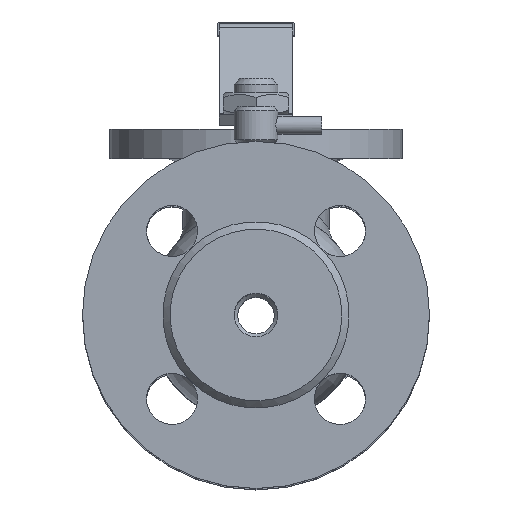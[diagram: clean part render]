
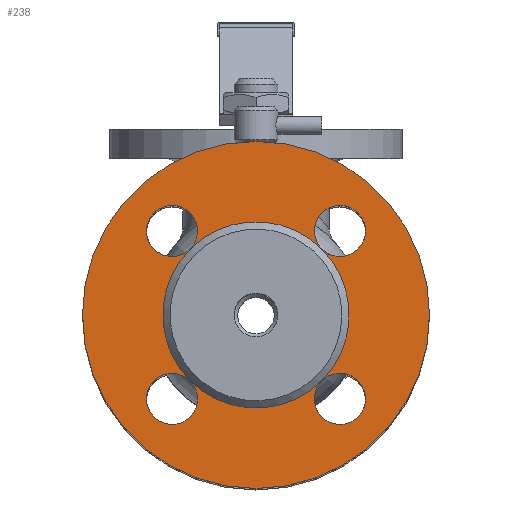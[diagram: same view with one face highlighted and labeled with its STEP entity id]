
A CAD part, top view. The second image highlights one B-rep face of the part: STEP entity #238.
In plain terms, the highlighted planar face has unit normal (0, 0, 1).
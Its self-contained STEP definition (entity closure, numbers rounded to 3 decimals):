
#238=ADVANCED_FACE('',(#2278,#2280,#2282,#2284,#2286,#2288),#2290,.F.);
#2278=FACE_BOUND('',#2279,.T.);
#2279=EDGE_LOOP('',(#22928));
#2280=FACE_BOUND('',#2281,.T.);
#2281=EDGE_LOOP('',(#22929,#22930));
#2282=FACE_BOUND('',#2283,.T.);
#2283=EDGE_LOOP('',(#22931,#22932));
#2284=FACE_BOUND('',#2285,.T.);
#2285=EDGE_LOOP('',(#22933,#22934));
#2286=FACE_BOUND('',#2287,.T.);
#2287=EDGE_LOOP('',(#22935,#22936));
#2288=FACE_BOUND('',#2289,.T.);
#2289=EDGE_LOOP('',(#22937,#22938,#22939,#22940));
#2290=PLANE('',#2291);
#2291=AXIS2_PLACEMENT_3D('',#2292,#2293,#2294);
#2292=CARTESIAN_POINT('',(0.,25.5,120.5));
#2293=DIRECTION('',(0.,0.,-1.));
#2294=DIRECTION('',(-1.,0.,0.));
#22928=ORIENTED_EDGE('',*,*,#27816,.T.);
#22929=ORIENTED_EDGE('',*,*,#27817,.F.);
#22930=ORIENTED_EDGE('',*,*,#27818,.F.);
#22931=ORIENTED_EDGE('',*,*,#27819,.F.);
#22932=ORIENTED_EDGE('',*,*,#27820,.F.);
#22933=ORIENTED_EDGE('',*,*,#27821,.F.);
#22934=ORIENTED_EDGE('',*,*,#27822,.F.);
#22935=ORIENTED_EDGE('',*,*,#27823,.F.);
#22936=ORIENTED_EDGE('',*,*,#27824,.F.);
#22937=ORIENTED_EDGE('',*,*,#27787,.F.);
#22938=ORIENTED_EDGE('',*,*,#27786,.F.);
#22939=ORIENTED_EDGE('',*,*,#27785,.F.);
#22940=ORIENTED_EDGE('',*,*,#27784,.F.);
#27784=EDGE_CURVE('',#30012,#30013,#30014,.T.);
#27785=EDGE_CURVE('',#30013,#30015,#30016,.T.);
#27786=EDGE_CURVE('',#30015,#30017,#30018,.T.);
#27787=EDGE_CURVE('',#30017,#30012,#30019,.T.);
#27816=EDGE_CURVE('',#30072,#30072,#30073,.T.);
#27817=EDGE_CURVE('',#30074,#30013,#30075,.T.);
#27818=EDGE_CURVE('',#30013,#30074,#30076,.T.);
#27819=EDGE_CURVE('',#30077,#30015,#30078,.T.);
#27820=EDGE_CURVE('',#30015,#30077,#30079,.T.);
#27821=EDGE_CURVE('',#30080,#30017,#30081,.T.);
#27822=EDGE_CURVE('',#30017,#30080,#30082,.T.);
#27823=EDGE_CURVE('',#30083,#30012,#30084,.T.);
#27824=EDGE_CURVE('',#30012,#30083,#30085,.T.);
#30012=VERTEX_POINT('',#46365);
#30013=VERTEX_POINT('',#46366);
#30014=CIRCLE('',#46367,25.5);
#30015=VERTEX_POINT('',#46371);
#30016=CIRCLE('',#46372,25.5);
#30017=VERTEX_POINT('',#46376);
#30018=CIRCLE('',#46377,25.5);
#30019=CIRCLE('',#46381,25.5);
#30072=VERTEX_POINT('',#46521);
#30073=CIRCLE('',#46522,47.5);
#30074=VERTEX_POINT('',#46526);
#30075=CIRCLE('',#46527,7.);
#30076=CIRCLE('',#46531,7.);
#30077=VERTEX_POINT('',#46535);
#30078=CIRCLE('',#46536,7.);
#30079=CIRCLE('',#46540,7.);
#30080=VERTEX_POINT('',#46544);
#30081=CIRCLE('',#46545,7.);
#30082=CIRCLE('',#46549,7.);
#30083=VERTEX_POINT('',#46553);
#30084=CIRCLE('',#46554,7.);
#30085=CIRCLE('',#46558,7.);
#46365=CARTESIAN_POINT('',(18.031,18.031,120.5));
#46366=CARTESIAN_POINT('',(-18.031,18.031,120.5));
#46367=AXIS2_PLACEMENT_3D('',#46368,#46369,#46370);
#46368=CARTESIAN_POINT('',(0.,0.,120.5));
#46369=DIRECTION('',(0.,0.,1.));
#46370=DIRECTION('',(0.707,0.707,0.));
#46371=CARTESIAN_POINT('',(-18.031,-18.031,120.5));
#46372=AXIS2_PLACEMENT_3D('',#46373,#46374,#46375);
#46373=CARTESIAN_POINT('',(0.,0.,120.5));
#46374=DIRECTION('',(0.,0.,1.));
#46375=DIRECTION('',(-0.707,0.707,0.));
#46376=CARTESIAN_POINT('',(18.031,-18.031,120.5));
#46377=AXIS2_PLACEMENT_3D('',#46378,#46379,#46380);
#46378=CARTESIAN_POINT('',(0.,0.,120.5));
#46379=DIRECTION('',(0.,0.,1.));
#46380=DIRECTION('',(-0.707,-0.707,0.));
#46381=AXIS2_PLACEMENT_3D('',#46382,#46383,#46384);
#46382=CARTESIAN_POINT('',(0.,0.,120.5));
#46383=DIRECTION('',(0.,0.,1.));
#46384=DIRECTION('',(0.707,-0.707,0.));
#46521=CARTESIAN_POINT('',(47.5,0.,120.5));
#46522=AXIS2_PLACEMENT_3D('',#46523,#46524,#46525);
#46523=CARTESIAN_POINT('',(0.,0.,120.5));
#46524=DIRECTION('',(0.,0.,1.));
#46525=DIRECTION('',(1.,0.,0.));
#46526=CARTESIAN_POINT('',(-15.981,22.981,120.5));
#46527=AXIS2_PLACEMENT_3D('',#46528,#46529,#46530);
#46528=CARTESIAN_POINT('',(-22.981,22.981,120.5));
#46529=DIRECTION('',(0.,0.,1.));
#46530=DIRECTION('',(1.,0.,0.));
#46531=AXIS2_PLACEMENT_3D('',#46532,#46533,#46534);
#46532=CARTESIAN_POINT('',(-22.981,22.981,120.5));
#46533=DIRECTION('',(0.,0.,1.));
#46534=DIRECTION('',(0.707,-0.707,0.));
#46535=CARTESIAN_POINT('',(-15.981,-22.981,120.5));
#46536=AXIS2_PLACEMENT_3D('',#46537,#46538,#46539);
#46537=CARTESIAN_POINT('',(-22.981,-22.981,120.5));
#46538=DIRECTION('',(0.,0.,1.));
#46539=DIRECTION('',(1.,0.,0.));
#46540=AXIS2_PLACEMENT_3D('',#46541,#46542,#46543);
#46541=CARTESIAN_POINT('',(-22.981,-22.981,120.5));
#46542=DIRECTION('',(0.,0.,1.));
#46543=DIRECTION('',(0.707,0.707,0.));
#46544=CARTESIAN_POINT('',(29.981,-22.981,120.5));
#46545=AXIS2_PLACEMENT_3D('',#46546,#46547,#46548);
#46546=CARTESIAN_POINT('',(22.981,-22.981,120.5));
#46547=DIRECTION('',(0.,0.,1.));
#46548=DIRECTION('',(1.,0.,0.));
#46549=AXIS2_PLACEMENT_3D('',#46550,#46551,#46552);
#46550=CARTESIAN_POINT('',(22.981,-22.981,120.5));
#46551=DIRECTION('',(0.,0.,1.));
#46552=DIRECTION('',(-0.707,0.707,0.));
#46553=CARTESIAN_POINT('',(29.981,22.981,120.5));
#46554=AXIS2_PLACEMENT_3D('',#46555,#46556,#46557);
#46555=CARTESIAN_POINT('',(22.981,22.981,120.5));
#46556=DIRECTION('',(0.,0.,1.));
#46557=DIRECTION('',(1.,0.,0.));
#46558=AXIS2_PLACEMENT_3D('',#46559,#46560,#46561);
#46559=CARTESIAN_POINT('',(22.981,22.981,120.5));
#46560=DIRECTION('',(0.,0.,1.));
#46561=DIRECTION('',(-0.707,-0.707,0.));
